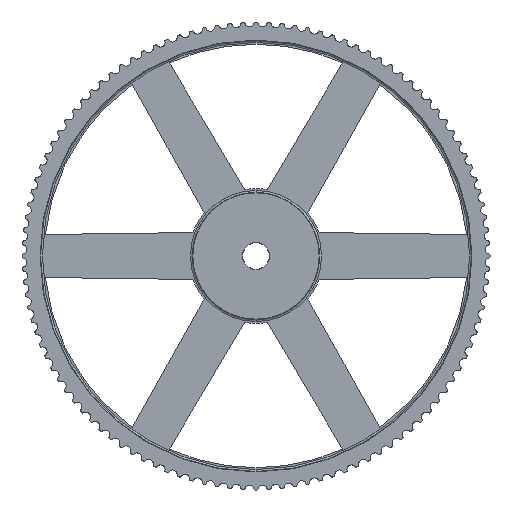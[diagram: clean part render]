
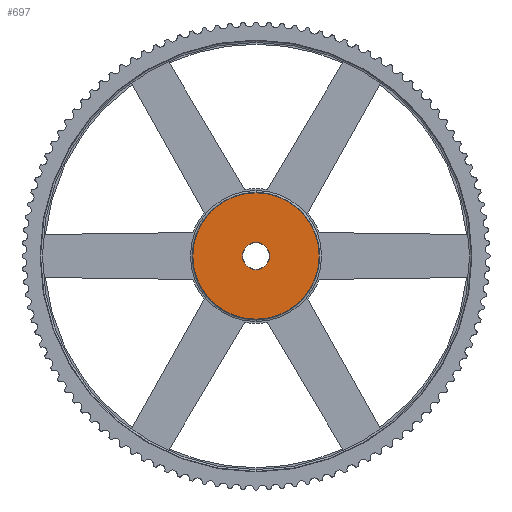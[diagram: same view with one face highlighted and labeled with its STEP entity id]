
A CAD part, left-side view. The second image highlights one B-rep face of the part: STEP entity #697.
In plain terms, the highlighted planar face has unit normal (-1, 0, 0).
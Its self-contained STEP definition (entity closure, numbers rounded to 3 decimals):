
#697=ADVANCED_FACE('',(#1960,#1961),#1962,.T.);
#1960=FACE_BOUND('',#3226,.T.);
#1961=FACE_OUTER_BOUND('',#3227,.T.);
#1962=PLANE('',#3228);
#3226=EDGE_LOOP('',(#8774,#8775));
#3227=EDGE_LOOP('',(#8776,#8777));
#3228=AXIS2_PLACEMENT_3D('',#8778,#8779,#8780);
#8774=ORIENTED_EDGE('',*,*,#8859,.T.);
#8775=ORIENTED_EDGE('',*,*,#8865,.T.);
#8776=ORIENTED_EDGE('',*,*,#10627,.T.);
#8777=ORIENTED_EDGE('',*,*,#8798,.T.);
#8778=CARTESIAN_POINT('',(0.0,0.0,0.0));
#8779=DIRECTION('',(-1.0,0.0,0.0));
#8780=DIRECTION('',(0.0,0.0,1.0));
#8798=EDGE_CURVE('',#10650,#10647,#10651,.T.);
#8859=EDGE_CURVE('',#10759,#10761,#10763,.T.);
#8865=EDGE_CURVE('',#10761,#10759,#10771,.T.);
#10627=EDGE_CURVE('',#10647,#10650,#13693,.T.);
#10647=VERTEX_POINT('',#13717);
#10650=VERTEX_POINT('',#13721);
#10651=CIRCLE('',#13722,67.0);
#10759=VERTEX_POINT('',#13851);
#10761=VERTEX_POINT('',#13854);
#10763=CIRCLE('',#13857,14.5);
#10771=CIRCLE('',#13867,14.5);
#13693=CIRCLE('',#17393,67.0);
#13717=CARTESIAN_POINT('',(0.0,67.0,0.0));
#13721=CARTESIAN_POINT('',(0.0,-67.0,0.));
#13722=AXIS2_PLACEMENT_3D('',#17416,#17417,#17418);
#13851=CARTESIAN_POINT('',(0.0,14.5,0.0));
#13854=CARTESIAN_POINT('',(0.0,-14.5,0.));
#13857=AXIS2_PLACEMENT_3D('',#17553,#17554,#17555);
#13867=AXIS2_PLACEMENT_3D('',#17567,#17568,#17569);
#17393=AXIS2_PLACEMENT_3D('',#21645,#21646,#21647);
#17416=CARTESIAN_POINT('',(0.0,0.0,0.));
#17417=DIRECTION('',(-1.0,0.0,0.0));
#17418=DIRECTION('',(0.0,1.0,0.0));
#17553=CARTESIAN_POINT('',(0.0,0.0,0.0));
#17554=DIRECTION('',(1.0,0.0,0.0));
#17555=DIRECTION('',(0.0,1.0,0.0));
#17567=CARTESIAN_POINT('',(0.0,0.0,0.0));
#17568=DIRECTION('',(1.0,0.0,0.0));
#17569=DIRECTION('',(0.0,1.0,0.0));
#21645=CARTESIAN_POINT('',(0.0,0.0,0.));
#21646=DIRECTION('',(-1.0,0.0,0.0));
#21647=DIRECTION('',(0.0,1.0,0.0));
